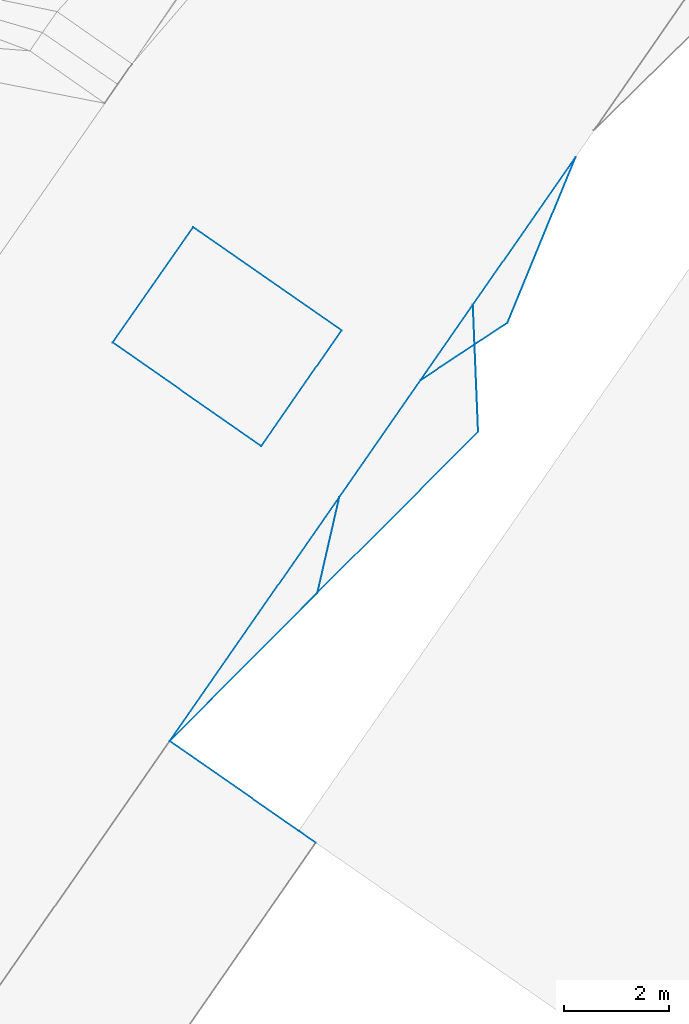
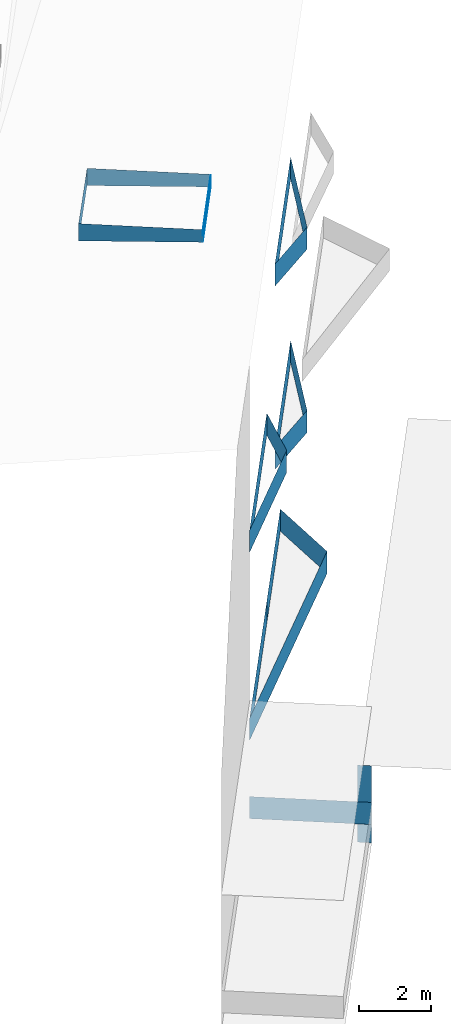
# Not in any storey, part 39 of 136: 32 walls.
"""IFC4 building model written with IfcOpenShell, lengths in metres."""

from ifc_helpers import new_model, entity, si_unit, converted_unit, origin, place, context, subcontext, project, spatial, face_set, surface_model, element, save


model = new_model("IFC4")

# Units and contexts
model_context = context("Model", 3, precision=1e-05, world=origin())
body_context = subcontext(model_context, "Body", "Model", "MODEL_VIEW")
ifc_project = project(units=[converted_unit("PLANEANGLEUNIT", "DEGREE", entity("IfcRatioMeasure", 0.0174532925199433), si_unit("PLANEANGLEUNIT", "RADIAN"), dimensions=[0, 0, 0, 0, 0, 0, 0]), si_unit("AREAUNIT", "SQUARE_METRE"), si_unit("LENGTHUNIT", "METRE")], contexts=[model_context])

# Site, building
site_placement = place(None, origin())
site = spatial("IfcSite", under=ifc_project, at=site_placement, Name="_site")
building_placement = place(site_placement, origin())
building = spatial("IfcBuilding", under=site, at=building_placement, Name="_building")

# Walls
wall_1_placement = place(building_placement, origin())
element("IfcWall", 1, at=wall_1_placement, inside=building, Name="Wall", PredefinedType="NOTDEFINED", context=body_context, shape_type="SurfaceModel", body=[
    surface_model("IfcFaceBasedSurfaceModel", [(-34.74, 69.51, 44.42), (-31.78, 73.771, 44.42), (-31.78, 73.771, 45.17), (-34.74, 69.51, 45.17)], [face_set([[[0, 1, 2, 3]]])]),
])
wall_2_placement = place(building_placement, origin())
element("IfcWall", 2, at=wall_2_placement, inside=building, Name="Wall", PredefinedType="NOTDEFINED", context=body_context, shape_type="SurfaceModel", body=[
    surface_model("IfcFaceBasedSurfaceModel", [(-39.53, 62.62, 41.1), (-36.29, 67.28, 41.1), (-36.29, 67.28, 41.85), (-39.53, 62.62, 41.85)], [face_set([[[0, 1, 2, 3]]])]),
])
wall_3_placement = place(building_placement, origin())
element("IfcWall", 3, at=wall_3_placement, inside=building, Name="Wall", PredefinedType="NOTDEFINED", context=body_context, shape_type="SurfaceModel", body=[
    surface_model("IfcFaceBasedSurfaceModel", [(-33.64, 68.53, 41.1), (-39.53, 62.62, 41.1), (-39.53, 62.62, 41.85), (-33.64, 68.53, 41.85)], [face_set([[[0, 1, 2, 3]]])]),
])
wall_4_placement = place(building_placement, origin())
element("IfcWall", 4, at=wall_4_placement, inside=building, Name="Wall", PredefinedType="NOTDEFINED", context=body_context, shape_type="SurfaceModel", body=[
    surface_model("IfcFaceBasedSurfaceModel", [(-33.74, 70.95, 41.1), (-33.64, 68.53, 41.1), (-33.64, 68.53, 41.85), (-33.74, 70.95, 41.85)], [face_set([[[0, 1, 2, 3]]])]),
])
wall_5_placement = place(building_placement, origin())
element("IfcWall", 5, at=wall_5_placement, inside=building, Name="Wall", PredefinedType="NOTDEFINED", context=body_context, shape_type="SurfaceModel", body=[
    surface_model("IfcFaceBasedSurfaceModel", [(-36.29, 67.28, 41.1), (-33.74, 70.95, 41.1), (-33.74, 70.95, 41.85), (-36.29, 67.28, 41.85)], [face_set([[[0, 1, 2, 3]]])]),
])
wall_6_placement = place(building_placement, origin())
element("IfcWall", 6, at=wall_6_placement, inside=building, Name="Wall", PredefinedType="NOTDEFINED", context=body_context, shape_type="SurfaceModel", body=[
    surface_model("IfcFaceBasedSurfaceModel", [(-39.53, 62.62, 41.1), (-36.29, 67.28, 41.1), (-36.29, 67.28, 41.85), (-39.53, 62.62, 41.85)], [face_set([[[0, 1, 2, 3]]])]),
])
wall_7_placement = place(building_placement, origin())
element("IfcWall", 7, at=wall_7_placement, inside=building, Name="Wall", PredefinedType="NOTDEFINED", context=body_context, shape_type="SurfaceModel", body=[
    surface_model("IfcFaceBasedSurfaceModel", [(-33.74, 70.95, 41.1), (-33.64, 68.53, 41.1), (-33.64, 68.53, 41.85), (-33.74, 70.95, 41.85)], [face_set([[[0, 1, 2, 3]]])]),
])
wall_8_placement = place(building_placement, origin())
element("IfcWall", 8, at=wall_8_placement, inside=building, Name="Wall", PredefinedType="NOTDEFINED", context=body_context, shape_type="SurfaceModel", body=[
    surface_model("IfcFaceBasedSurfaceModel", [(-36.29, 67.28, 41.1), (-33.74, 70.95, 41.1), (-33.74, 70.95, 41.85), (-36.29, 67.28, 41.85)], [face_set([[[0, 1, 2, 3]]])]),
])
wall_9_placement = place(building_placement, origin())
element("IfcWall", 9, at=wall_9_placement, inside=building, Name="Wall", PredefinedType="NOTDEFINED", context=body_context, shape_type="SurfaceModel", body=[
    surface_model("IfcFaceBasedSurfaceModel", [(-33.64, 68.53, 41.1), (-39.53, 62.62, 41.1), (-39.53, 62.62, 41.85), (-33.64, 68.53, 41.85)], [face_set([[[0, 1, 2, 3]]])]),
])
wall_10_placement = place(building_placement, origin())
element("IfcWall", 10, at=wall_10_placement, inside=building, Name="Wall", PredefinedType="NOTDEFINED", context=body_context, shape_type="SurfaceModel", body=[
    surface_model("IfcFaceBasedSurfaceModel", [(-39.53, 62.62, 47.47), (-36.29, 67.28, 47.47), (-36.29, 67.28, 48.22), (-39.53, 62.62, 48.22)], [face_set([[[0, 1, 2, 3]]])]),
])
wall_11_placement = place(building_placement, origin())
element("IfcWall", 11, at=wall_11_placement, inside=building, Name="Wall", PredefinedType="NOTDEFINED", context=body_context, shape_type="SurfaceModel", body=[
    surface_model("IfcFaceBasedSurfaceModel", [(-36.29, 67.28, 47.47), (-36.71, 65.45, 47.47), (-36.71, 65.45, 48.22), (-36.29, 67.28, 48.22)], [face_set([[[0, 1, 2, 3]]])]),
])
wall_12_placement = place(building_placement, origin())
element("IfcWall", 12, at=wall_12_placement, inside=building, Name="Wall", PredefinedType="NOTDEFINED", context=body_context, shape_type="SurfaceModel", body=[
    surface_model("IfcFaceBasedSurfaceModel", [(-36.71, 65.45, 47.47), (-39.53, 62.62, 47.47), (-39.53, 62.62, 48.22), (-36.71, 65.45, 48.22)], [face_set([[[0, 1, 2, 3]]])]),
])
wall_13_placement = place(building_placement, origin())
element("IfcWall", 13, at=wall_13_placement, inside=building, Name="Wall", PredefinedType="NOTDEFINED", context=body_context, shape_type="SurfaceModel", body=[
    surface_model("IfcFaceBasedSurfaceModel", [(-36.29, 67.28, 47.47), (-36.71, 65.45, 47.47), (-36.71, 65.45, 48.22), (-36.29, 67.28, 48.22)], [face_set([[[0, 1, 2, 3]]])]),
])
wall_14_placement = place(building_placement, origin())
element("IfcWall", 14, at=wall_14_placement, inside=building, Name="Wall", PredefinedType="NOTDEFINED", context=body_context, shape_type="SurfaceModel", body=[
    surface_model("IfcFaceBasedSurfaceModel", [(-31.78, 73.771, 44.42), (-33.08, 70.61, 44.42), (-33.08, 70.61, 45.17), (-31.78, 73.771, 45.17)], [face_set([[[0, 1, 2, 3]]])]),
])
wall_15_placement = place(building_placement, origin())
element("IfcWall", 15, at=wall_15_placement, inside=building, Name="Wall", PredefinedType="NOTDEFINED", context=body_context, shape_type="SurfaceModel", body=[
    surface_model("IfcFaceBasedSurfaceModel", [(-31.78, 73.771, 50.63), (-33.08, 70.61, 50.63), (-33.08, 70.61, 51.38), (-31.78, 73.771, 51.38)], [face_set([[[0, 1, 2, 3]]])]),
])
wall_16_placement = place(building_placement, origin())
element("IfcWall", 16, at=wall_16_placement, inside=building, Name="Wall", PredefinedType="NOTDEFINED", context=body_context, shape_type="SurfaceModel", body=[
    surface_model("IfcFaceBasedSurfaceModel", [(-34.74, 69.51, 50.63), (-31.78, 73.771, 50.63), (-31.78, 73.771, 51.38), (-34.74, 69.51, 51.38)], [face_set([[[0, 1, 2, 3]]])]),
])
wall_17_placement = place(building_placement, origin())
element("IfcWall", 17, at=wall_17_placement, inside=building, Name="Wall", PredefinedType="NOTDEFINED", context=body_context, shape_type="SurfaceModel", body=[
    surface_model("IfcFaceBasedSurfaceModel", [(-33.08, 70.61, 50.63), (-34.74, 69.51, 50.63), (-34.74, 69.51, 51.38), (-33.08, 70.61, 51.38)], [face_set([[[0, 1, 2, 3]]])]),
])
wall_18_placement = place(building_placement, origin())
element("IfcWall", 18, at=wall_18_placement, inside=building, Name="Wall", PredefinedType="NOTDEFINED", context=body_context, shape_type="SurfaceModel", body=[
    surface_model("IfcFaceBasedSurfaceModel", [(-34.74, 69.51, 50.63), (-31.78, 73.771, 50.63), (-31.78, 73.771, 51.38), (-34.74, 69.51, 51.38)], [face_set([[[0, 1, 2, 3]]])]),
])
wall_19_placement = place(building_placement, origin())
element("IfcWall", 19, at=wall_19_placement, inside=building, Name="Wall", PredefinedType="NOTDEFINED", context=body_context, shape_type="SurfaceModel", body=[
    surface_model("IfcFaceBasedSurfaceModel", [(-34.74, 69.51, 44.42), (-31.78, 73.771, 44.42), (-31.78, 73.771, 45.17), (-34.74, 69.51, 45.17)], [face_set([[[0, 1, 2, 3]]])]),
])
wall_20_placement = place(building_placement, origin())
element("IfcWall", 20, at=wall_20_placement, inside=building, Name="Wall", PredefinedType="NOTDEFINED", context=body_context, shape_type="SurfaceModel", body=[
    surface_model("IfcFaceBasedSurfaceModel", [(-33.08, 70.61, 44.42), (-34.74, 69.51, 44.42), (-34.74, 69.51, 45.17), (-33.08, 70.61, 45.17)], [face_set([[[0, 1, 2, 3]]])]),
])
wall_21_placement = place(building_placement, origin())
element("IfcWall", 21, at=wall_21_placement, inside=building, Name="Wall", PredefinedType="NOTDEFINED", context=body_context, shape_type="SurfaceModel", body=[
    surface_model("IfcFaceBasedSurfaceModel", [(-31.78, 73.771, 44.42), (-33.08, 70.61, 44.42), (-33.08, 70.61, 45.17), (-31.78, 73.771, 45.17)], [face_set([[[0, 1, 2, 3]]])]),
])
wall_22_placement = place(building_placement, origin())
element("IfcWall", 22, at=wall_22_placement, inside=building, Name="Wall", PredefinedType="NOTDEFINED", context=body_context, shape_type="SurfaceModel", body=[
    surface_model("IfcFaceBasedSurfaceModel", [(-36.25, 70.46, 54.37), (-37.78, 68.25, 54.37), (-37.78, 68.25, 53.943), (-36.25, 70.46, 53.944)], [face_set([[[0, 1, 2, 3]]])]),
])
wall_23_placement = place(building_placement, origin())
element("IfcWall", 23, at=wall_23_placement, inside=building, Name="Wall", PredefinedType="NOTDEFINED", context=body_context, shape_type="SurfaceModel", body=[
    surface_model("IfcFaceBasedSurfaceModel", [(-36.74, 60.68, 40.43), (-37.07, 60.91, 40.43), (-37.07, 60.91, 37.82), (-36.74, 60.68, 37.82)], [face_set([[[0, 1, 2, 3]]])]),
])
wall_24_placement = place(building_placement, origin())
element("IfcWall", 24, at=wall_24_placement, inside=building, Name="Wall", PredefinedType="NOTDEFINED", context=body_context, shape_type="SurfaceModel", body=[
    surface_model("IfcFaceBasedSurfaceModel", [(-33.08, 70.61, 50.63), (-34.74, 69.51, 50.63), (-34.74, 69.51, 51.38), (-33.08, 70.61, 51.38)], [face_set([[[0, 1, 2, 3]]])]),
])
wall_25_placement = place(building_placement, origin())
element("IfcWall", 25, at=wall_25_placement, inside=building, Name="Wall", PredefinedType="NOTDEFINED", context=body_context, shape_type="SurfaceModel", body=[
    surface_model("IfcFaceBasedSurfaceModel", [(-31.78, 73.771, 50.63), (-33.08, 70.61, 50.63), (-33.08, 70.61, 51.38), (-31.78, 73.771, 51.38)], [face_set([[[0, 1, 2, 3]]])]),
])
wall_26_placement = place(building_placement, origin())
element("IfcWall", 26, at=wall_26_placement, inside=building, Name="Wall", PredefinedType="NOTDEFINED", context=body_context, shape_type="SurfaceModel", body=[
    surface_model("IfcFaceBasedSurfaceModel", [(-37.78, 68.25, 54.37), (-40.62, 70.23, 54.37), (-40.62, 70.23, 53.785), (-37.78, 68.25, 53.943)], [face_set([[[0, 1, 2, 3]]])]),
])
wall_27_placement = place(building_placement, origin())
element("IfcWall", 27, at=wall_27_placement, inside=building, Name="Wall", PredefinedType="NOTDEFINED", context=body_context, shape_type="SurfaceModel", body=[
    surface_model("IfcFaceBasedSurfaceModel", [(-39.08, 72.43, 54.37), (-36.25, 70.46, 54.37), (-36.25, 70.46, 53.944), (-39.08, 72.43, 53.786)], [face_set([[[0, 1, 2, 3]]])]),
])
wall_28_placement = place(building_placement, origin())
element("IfcWall", 28, at=wall_28_placement, inside=building, Name="Wall", PredefinedType="NOTDEFINED", context=body_context, shape_type="SurfaceModel", body=[
    surface_model("IfcFaceBasedSurfaceModel", [(-39.53, 62.62, 47.47), (-36.29, 67.28, 47.47), (-36.29, 67.28, 48.22), (-39.53, 62.62, 48.22)], [face_set([[[0, 1, 2, 3]]])]),
])
wall_29_placement = place(building_placement, origin())
element("IfcWall", 29, at=wall_29_placement, inside=building, Name="Wall", PredefinedType="NOTDEFINED", context=body_context, shape_type="SurfaceModel", body=[
    surface_model("IfcFaceBasedSurfaceModel", [(-36.71, 65.45, 47.47), (-39.53, 62.62, 47.47), (-39.53, 62.62, 48.22), (-36.71, 65.45, 48.22)], [face_set([[[0, 1, 2, 3]]])]),
])
wall_30_placement = place(building_placement, origin())
element("IfcWall", 30, at=wall_30_placement, inside=building, Name="Wall", PredefinedType="NOTDEFINED", context=body_context, shape_type="SurfaceModel", body=[
    surface_model("IfcFaceBasedSurfaceModel", [(-40.62, 70.23, 54.37), (-39.08, 72.43, 54.37), (-39.08, 72.43, 53.786), (-40.62, 70.23, 53.785)], [face_set([[[0, 1, 2, 3]]])]),
])
wall_31_placement = place(building_placement, origin())
element("IfcWall", 31, at=wall_31_placement, inside=building, Name="Wall", PredefinedType="NOTDEFINED", context=body_context, shape_type="SurfaceModel", body=[
    surface_model("IfcFaceBasedSurfaceModel", [(-33.08, 70.61, 44.42), (-34.74, 69.51, 44.42), (-34.74, 69.51, 45.17), (-33.08, 70.61, 45.17)], [face_set([[[0, 1, 2, 3]]])]),
])
wall_32_placement = place(building_placement, origin())
element("IfcWall", 32, at=wall_32_placement, inside=building, Name="Wall", PredefinedType="NOTDEFINED", context=body_context, shape_type="SurfaceModel", body=[
    surface_model("IfcFaceBasedSurfaceModel", [(-39.53, 62.62, 38.44), (-36.74, 60.68, 38.44), (-36.74, 60.68, 39.19), (-39.53, 62.62, 39.19)], [face_set([[[0, 1, 2, 3]]])]),
])

save(model, "model.ifc")
